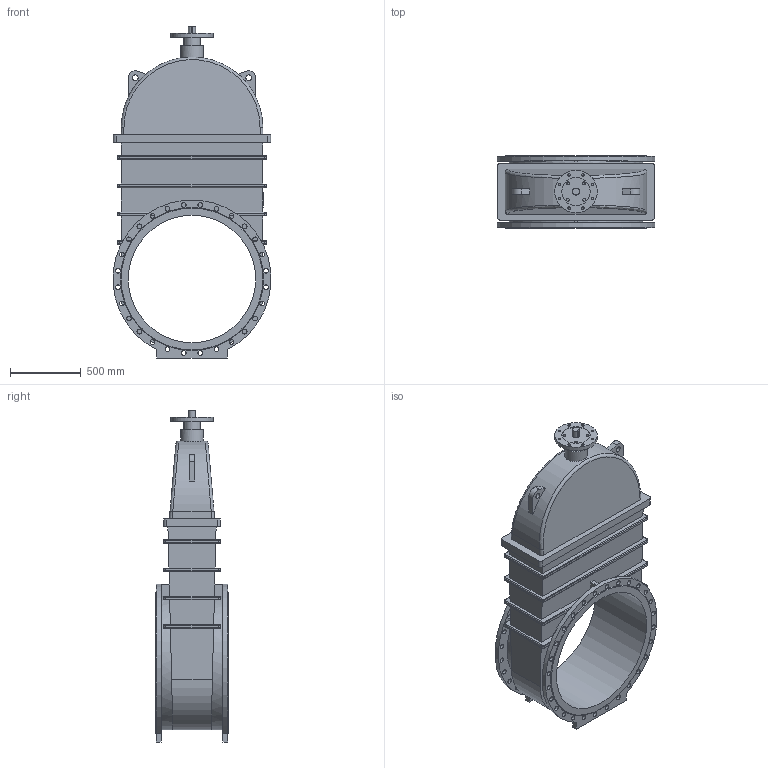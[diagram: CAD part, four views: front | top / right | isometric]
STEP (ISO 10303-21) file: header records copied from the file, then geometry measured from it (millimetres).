
FILE_DESCRIPTION(('STEP AP203'), '1');
FILE_NAME('Çàäâèæêà 47GVA.Z DN900 PN10 áåç èñïîëíèò. ìåõ.', '', ('UNSPECIFIED'), ('UNSPECIFIED'), 'ASCON STEP Converter 1.6', 'ASCON Math Kernel', '');
FILE_SCHEMA(('CONFIG_CONTROL_DESIGN'));
Length unit declared in the file: millimetre
Bounding box: 1112.29 x 510 x 2342.5 mm (x, y, z)
Volume: 427115128.7 mm3; surface area: 8482869.1 mm2
Topology: 1 solids, 1 shells, 308 faces, 784 edges, 498 vertices
Faces by surface type: cylinder 157, plane 111, bspline 38, cone 2
Full cylindrical faces by diameter (mm): 18 x8, 20 x4, 34 x56, 40 x2, 50 x1, 120 x1, 160 x1, 200 x1, 300 x1, 900 x1
Entity records: 15648 total; most frequent: CARTESIAN_POINT 5948, ORIENTED_EDGE 1412, DIRECTION 1395, EDGE_CURVE 706, EDGE_LOOP 548, AXIS2_PLACEMENT_3D 536, VERTEX_POINT 498, FACE_BOUND 393
